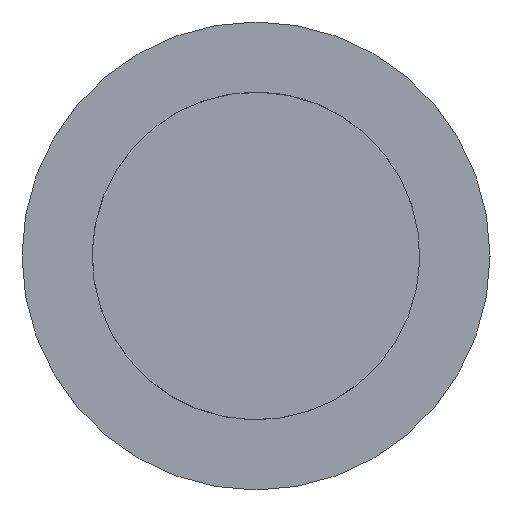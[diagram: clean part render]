
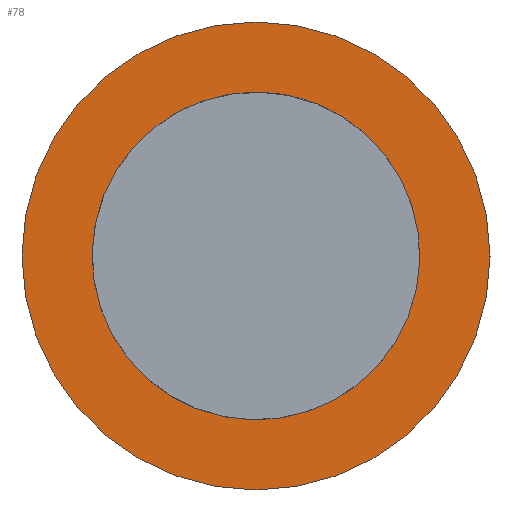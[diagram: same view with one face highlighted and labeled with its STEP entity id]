
A CAD part, left-side view. The second image highlights one B-rep face of the part: STEP entity #78.
In plain terms, the highlighted planar face has unit normal (-1, 0, 0).
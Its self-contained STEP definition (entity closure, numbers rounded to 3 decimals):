
#78 = ADVANCED_FACE( '', ( #93, #94 ), #95, .T. );
#93 = FACE_OUTER_BOUND( '', #115, .T. );
#94 = FACE_BOUND( '', #116, .T. );
#95 = PLANE( '', #117 );
#115 = EDGE_LOOP( '', ( #143 ) );
#116 = EDGE_LOOP( '', ( #144 ) );
#117 = AXIS2_PLACEMENT_3D( '', #145, #146, #147 );
#143 = ORIENTED_EDGE( '', *, *, #171, .T. );
#144 = ORIENTED_EDGE( '', *, *, #169, .F. );
#145 = CARTESIAN_POINT( '', ( -24.98, 0., 0. ) );
#146 = DIRECTION( '', ( -1., 0., 0. ) );
#147 = DIRECTION( '', ( 0., 0., 1. ) );
#169 = EDGE_CURVE( '', #179, #179, #180, .T. );
#171 = EDGE_CURVE( '', #183, #183, #184, .T. );
#179 = VERTEX_POINT( '', #193 );
#180 = CIRCLE( '', #194, 1.4 );
#183 = VERTEX_POINT( '', #197 );
#184 = CIRCLE( '', #198, 2. );
#193 = CARTESIAN_POINT( '', ( -24.98, 0., 1.4 ) );
#194 = AXIS2_PLACEMENT_3D( '', #210, #211, #212 );
#197 = CARTESIAN_POINT( '', ( -24.98, 2., 0. ) );
#198 = AXIS2_PLACEMENT_3D( '', #216, #217, #218 );
#210 = CARTESIAN_POINT( '', ( -24.98, 0., 0. ) );
#211 = DIRECTION( '', ( -1., 0., 0. ) );
#212 = DIRECTION( '', ( 0., 0., 1. ) );
#216 = CARTESIAN_POINT( '', ( -24.98, 0., 0. ) );
#217 = DIRECTION( '', ( -1., 0., 0. ) );
#218 = DIRECTION( '', ( 0., 1., 0. ) );
